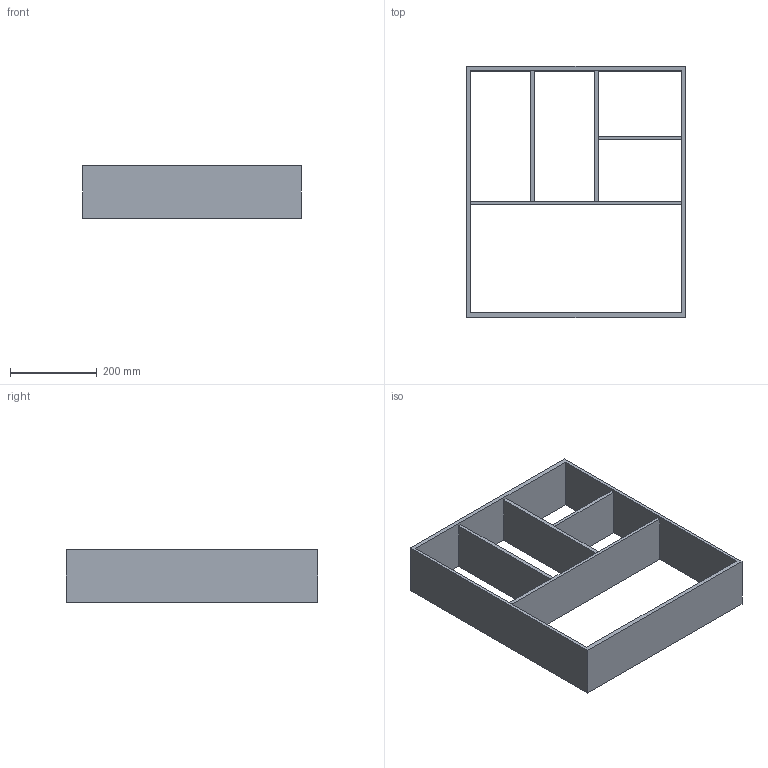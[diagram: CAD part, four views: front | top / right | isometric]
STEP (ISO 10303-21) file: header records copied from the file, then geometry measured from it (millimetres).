
FILE_DESCRIPTION (( 'STEP AP214' ), '1' );
FILE_NAME ('Vario Multi H120 NL600_B600_19 mm_Alu-Buche.step', '2010-10-08T09:47:46', ( 'grass' ), ( '' ), 'SwSTEP 2.0', 'SolidWorks 2010', '' );
FILE_SCHEMA (( 'AUTOMOTIVE_DESIGN' ));
Length unit declared in the file: millimetre
Products named in the file (1): Vario Multi H120 NL600_B600_19 mm_Alu-Buche
Bounding box: 502 x 579 x 120 mm (x, y, z)
Volume: 3559629.7 mm3; surface area: 854047.1 mm2
Topology: 1 solids, 1 shells, 29 faces, 80 edges, 52 vertices
Faces by surface type: plane 29
Entity records: 956 total; most frequent: CARTESIAN_POINT 162, ORIENTED_EDGE 160, DIRECTION 140, LINE 80, VECTOR 80, EDGE_CURVE 80, VERTEX_POINT 52, EDGE_LOOP 38
